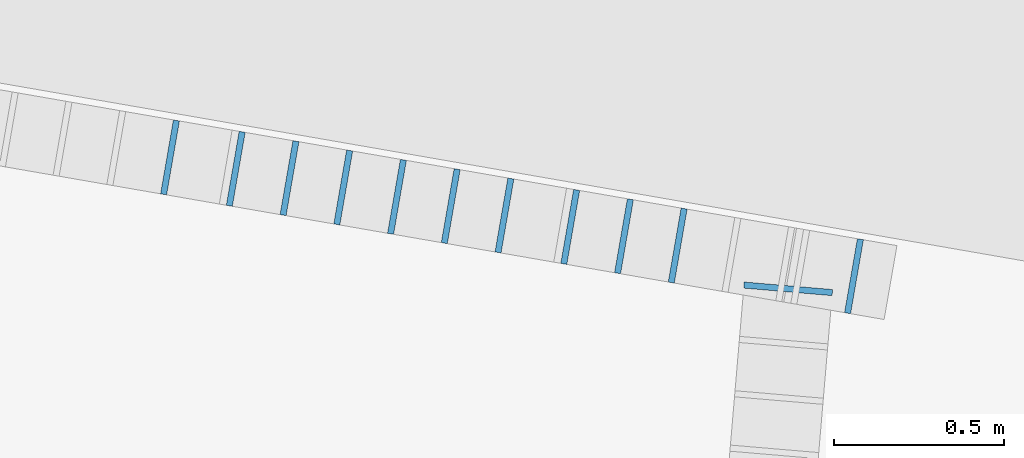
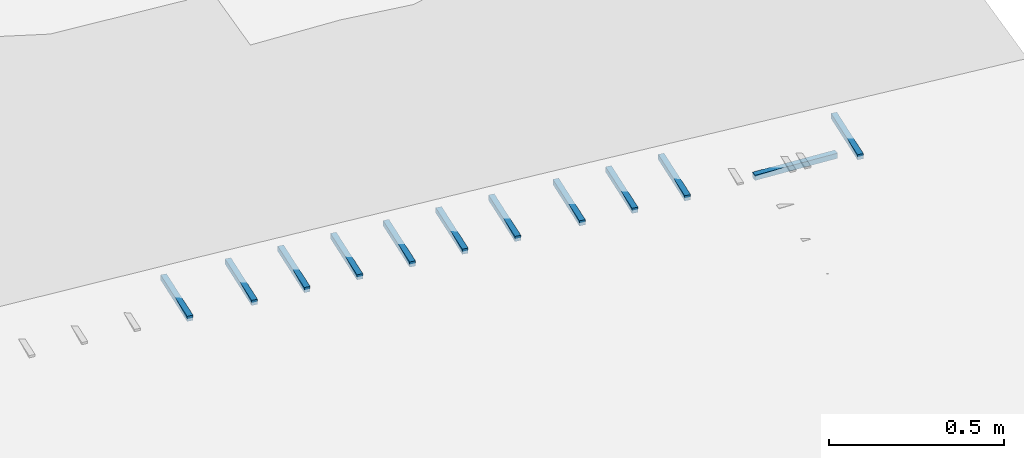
# Not in any storey, part 9 of 33: 12 members.
"""IFC4 model written with IfcOpenShell, lengths in metres."""

import ifcopenshell
import ifcopenshell.guid

model = None  # the IFC model being written
_history = None  # IfcOwnerHistory: only IFC2X3 demands one
_inside = {}  # id of a spatial element -> (the spatial element, [elements in it])
_under = {}  # id of a project, library or spatial element -> (it, [spatial elements below it])
_declared = {}  # id of a project -> (the project, [libraries it declares])
_typed = {}  # id of a type object -> (the type object, [elements of that type])
_made_of = {}  # id of a material, layer set ... -> (it, [elements and type objects made of it])


def new_model(schema):
    """Start an empty IFC model of exactly this schema.

    Asked for "IFC4X3", IfcOpenShell would pick the latest addendum, in which some entities
    have other attributes; the version numbers below select the first issue.
    IFC2X3 requires an IfcOwnerHistory on every rooted entity: one is made here for all.
    """
    global model, _history
    if schema == "IFC4X3":
        model = ifcopenshell.file(schema_version=(4, 3, 0, 0))
    else:
        model = ifcopenshell.file(schema=schema)
    _inside.clear()
    _under.clear()
    _declared.clear()
    _typed.clear()
    _made_of.clear()
    _history = None
    if model.schema == "IFC2X3":
        org = make("IfcOrganization", Name="unknown")
        user = make(
            "IfcPersonAndOrganization",
            ThePerson=make("IfcPerson", FamilyName="unknown"),
            TheOrganization=org,
        )
        app = make(
            "IfcApplication",
            ApplicationDeveloper=org,
            Version="unknown",
            ApplicationFullName="unknown",
            ApplicationIdentifier="unknown",
        )
        _history = make(
            "IfcOwnerHistory",
            OwningUser=user,
            OwningApplication=app,
            ChangeAction="ADDED",
            CreationDate=0,
        )
    return model


def make(cls, **values):
    """One entity of the class cls with the attributes given. An attribute that is None is left unset."""
    return model.create_entity(
        cls, **{name: value for name, value in values.items() if value is not None}
    )


def rooted(cls, **values):
    """An entity with a GlobalId (a new one), such as an element, a storey or a relation."""
    return make(cls, GlobalId=ifcopenshell.guid.new(), OwnerHistory=_history, **values)


def si_unit(unit_type, name, prefix=None):
    """IfcSIUnit, for example si_unit("LENGTHUNIT", "METRE", prefix="MILLI")."""
    return make("IfcSIUnit", UnitType=unit_type, Prefix=prefix, Name=name)


def assignment(units):
    """IfcUnitAssignment: the units of a project."""
    return None if units is None else make("IfcUnitAssignment", Units=units)


def point(xyz):
    """IfcCartesianPoint."""
    return None if xyz is None else make("IfcCartesianPoint", Coordinates=xyz)


def direction(xyz):
    """IfcDirection."""
    return None if xyz is None else make("IfcDirection", DirectionRatios=xyz)


def frame(location, z_axis=None, x_axis=None):
    """IfcAxis2Placement3D, a coordinate frame: its origin and axes. An axis left out is left unset."""
    return make(
        "IfcAxis2Placement3D",
        Location=point(location),
        Axis=direction(z_axis),
        RefDirection=direction(x_axis),
    )


def origin_with_axes():
    """The frame at (0, 0, 0) with the z axis (0, 0, 1) and the x axis (1, 0, 0) written out."""
    return frame((0.0, 0.0, 0.0), z_axis=(0.0, 0.0, 1.0), x_axis=(1.0, 0.0, 0.0))


def place(relative_to, where):
    """IfcLocalPlacement: puts the frame where relative to a parent placement (None: the world)."""
    return make(
        "IfcLocalPlacement", PlacementRelTo=relative_to, RelativePlacement=where
    )


def context(
    kind, dimensions, precision=None, world=None, true_north=None, identifier=None
):
    """IfcGeometricRepresentationContext, for example the 3D "Model" context."""
    return make(
        "IfcGeometricRepresentationContext",
        ContextIdentifier=identifier,
        ContextType=kind,
        CoordinateSpaceDimension=dimensions,
        Precision=precision,
        WorldCoordinateSystem=world,
        TrueNorth=true_north,
    )


def subcontext(parent, identifier, kind, view, scale=None):
    """IfcGeometricRepresentationSubContext, for example "Body" below "Model"."""
    return make(
        "IfcGeometricRepresentationSubContext",
        ContextIdentifier=identifier,
        ContextType=kind,
        ParentContext=parent,
        TargetScale=scale,
        TargetView=view,
    )


def project(units=None, contexts=None):
    """IfcProject with its units and contexts."""
    return rooted(
        "IfcProject",
        Name="project",
        RepresentationContexts=contexts,
        UnitsInContext=assignment(units),
    )


def spatial(cls, under=None, at=None, **own):
    """A site, building, storey or space (cls), placed at a placement, below another one or the project."""
    s = rooted(cls, ObjectPlacement=at, **own)
    if under is not None:
        _under.setdefault(under.id(), (under, []))[1].append(s)
    return s


def profile(cls, at=None, kind="AREA", **sizes):
    """A parametric profile (cls). Its sizes go by their IFC names, for example OverallWidth=200.0."""
    return make(cls, ProfileType=kind, Position=at, **sizes)


def rectangle(**sizes):
    """IfcRectangleProfileDef."""
    return profile("IfcRectangleProfileDef", **sizes)


def extrude(swept, where, along, depth):
    """IfcExtrudedAreaSolid: the profile swept, set in the frame where, extruded along a direction by depth."""
    return make(
        "IfcExtrudedAreaSolid",
        SweptArea=swept,
        Position=where,
        ExtrudedDirection=direction(along),
        Depth=depth,
    )


def shape(context_of_items, identifier, shape_type, items):
    """IfcShapeRepresentation: the items that make up one representation, for example the "Body"."""
    return make(
        "IfcShapeRepresentation",
        ContextOfItems=context_of_items,
        RepresentationIdentifier=identifier,
        RepresentationType=shape_type,
        Items=items,
    )


def material(Name=None, Category=None):
    """IfcMaterial."""
    return make("IfcMaterial", Name=Name, Category=Category)


def material_profile(
    of_material, cross_section, Name=None, Category=None, Priority=None
):
    """IfcMaterialProfile: a cross section and its material."""
    return make(
        "IfcMaterialProfile",
        Name=Name,
        Material=of_material,
        Profile=cross_section,
        Priority=Priority,
        Category=Category,
    )


def profile_set(profiles, Name=None, composite=None):
    """IfcMaterialProfileSet."""
    return make(
        "IfcMaterialProfileSet",
        Name=Name,
        MaterialProfiles=profiles,
        CompositeProfile=composite,
    )


def profile_usage(for_profile_set, cardinal=None, extent=None):
    """IfcMaterialProfileSetUsage: how a profile set lies along its element."""
    return make(
        "IfcMaterialProfileSetUsage",
        ForProfileSet=for_profile_set,
        CardinalPoint=cardinal,
        ReferenceExtent=extent,
    )


def made_of(thing, what):
    """Note that an element or type object is made of a material, layer set ...; save() writes the relation."""
    if what is not None:
        _made_of.setdefault(what.id(), (what, []))[1].append(thing)
    return thing


def type_object(cls, material=None, **own):
    """A type object (cls), such as IfcWallType, which elements share."""
    return made_of(rooted(cls, **own), material)


def element(
    cls,
    number,
    at=None,
    inside=None,
    cuts=None,
    type_object=None,
    material=None,
    context=None,
    identifier="Body",
    shape_type=None,
    held_by="IfcProductDefinitionShape",
    body=None,
    shapes=None,
    **own,
):
    """One element of the class cls, such as IfcWall. Its Tag is "e" and its number.

    at: its placement. inside: the storey or other place that contains it. cuts: it is an
    opening in that element (IfcRelVoidsElement). A single representation is given by context,
    identifier, shape_type and body (its items); several are given by shapes. held_by: the class
    of the entity that holds the representations. save() writes the other relations.
    """
    e = rooted(cls, Tag="e%d" % number, ObjectPlacement=at, **own)
    if body is not None:
        shapes = [shape(context, identifier, shape_type, body)]
    if shapes is not None:
        e.Representation = make(held_by, Representations=shapes)
    if inside is not None:
        _inside.setdefault(inside.id(), (inside, []))[1].append(e)
    if cuts is not None:
        rooted(
            "IfcRelVoidsElement", RelatingBuildingElement=cuts, RelatedOpeningElement=e
        )
    if type_object is not None:
        _typed.setdefault(type_object.id(), (type_object, []))[1].append(e)
    return made_of(e, material)


def aggregate(whole, parts):
    """IfcRelAggregates: a whole, such as a stair, and the parts it consists of."""
    return rooted("IfcRelAggregates", RelatingObject=whole, RelatedObjects=parts)


def save(model, path):
    """Write the relations noted so far, then the file.

    IfcRelAggregates (storeys below a building ...), IfcRelContainedInSpatialStructure (elements
    in a storey), IfcRelDefinesByType, IfcRelAssociatesMaterial and IfcRelDeclares: one each for
    every whole, place, type object, material and project.
    """
    for whole, parts in _under.values():
        aggregate(whole, parts)
    for where, things in _inside.values():
        rooted(
            "IfcRelContainedInSpatialStructure",
            RelatedElements=things,
            RelatingStructure=where,
        )
    for kind, things in _typed.values():
        rooted("IfcRelDefinesByType", RelatedObjects=things, RelatingType=kind)
    for what, things in _made_of.values():
        rooted("IfcRelAssociatesMaterial", RelatedObjects=things, RelatingMaterial=what)
    for by, libraries in _declared.values():
        rooted("IfcRelDeclares", RelatingContext=by, RelatedDefinitions=libraries)
    model.write(path)


model = new_model("IFC4")

# Units and contexts
model_context = context("Model", 3, precision=1e-05, world=origin_with_axes(), true_north=direction((0.0, 1.0)))
body_context = subcontext(model_context, "Body", "Model", "MODEL_VIEW")
ifc_project = project(units=[si_unit("AREAUNIT", "SQUARE_METRE"), si_unit("VOLUMEUNIT", "CUBIC_METRE"), si_unit("LENGTHUNIT", "METRE")], contexts=[model_context])

# Site
site_placement = place(None, origin_with_axes())
site = spatial("IfcSite", under=ifc_project, at=site_placement, Name="Lares · Rua das Mercês · artigo 4771")

# Members
ifc_material = material(Name="Aço galvanizado / Stahl verzinkt", Category="steel")
ifc_material_profile = material_profile(ifc_material, rectangle(XDim=0.018, YDim=0.018))
ifc_profile_set = profile_set([ifc_material_profile], Name="R0.018")
ifc_profile_usage_1 = profile_usage(ifc_profile_set)
member_type = type_object("IfcMemberType", Name="R0.018 / galvanized", PredefinedType="NOTDEFINED", material=ifc_profile_set)
member_1_placement = place(site_placement, frame((81.0591784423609, 5.70589247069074, 16.3575433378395), z_axis=(0.171124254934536, 0.985249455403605, 0.0), x_axis=(0.985249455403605, -0.171124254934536, 0.0)))
element("IfcMember", 1, at=member_1_placement, inside=site, type_object=member_type, material=ifc_profile_usage_1, Name="Acesso · dreno lateral raso · grelha", context=body_context, shape_type="SweptSolid", body=[
    extrude(rectangle(XDim=0.018, YDim=0.018), origin_with_axes(), (0.0, 0.0, 1.0), 0.220000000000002),
])
ifc_profile_usage_2 = profile_usage(ifc_profile_set)
member_2_placement = place(site_placement, frame((81.2520656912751, 5.6723906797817, 16.3658877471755), z_axis=(0.171122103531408, 0.985249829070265, 0.0), x_axis=(0.985249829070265, -0.171122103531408, 0.0)))
element("IfcMember", 2, at=member_2_placement, inside=site, type_object=member_type, material=ifc_profile_usage_2, Name="Acesso · dreno lateral raso · grelha", context=body_context, shape_type="SweptSolid", body=[
    extrude(rectangle(XDim=0.018, YDim=0.018), origin_with_axes(), (0.0, 0.0, 1.0), 0.220000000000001),
])
ifc_profile_usage_3 = profile_usage(ifc_profile_set)
member_3_placement = place(site_placement, frame((81.4097056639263, 5.64501114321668, 16.3718361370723), z_axis=(0.171122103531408, 0.985249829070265, 0.0), x_axis=(0.985249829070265, -0.171122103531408, 0.0)))
element("IfcMember", 3, at=member_3_placement, inside=site, type_object=member_type, material=ifc_profile_usage_3, Name="Acesso · dreno lateral raso · grelha", context=body_context, shape_type="SweptSolid", body=[
    extrude(rectangle(XDim=0.018, YDim=0.018), origin_with_axes(), (0.0, 0.0, 1.0), 0.220000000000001),
])
ifc_profile_usage_4 = profile_usage(ifc_profile_set)
member_4_placement = place(site_placement, frame((81.5673456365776, 5.61763160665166, 16.377784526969), z_axis=(0.171122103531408, 0.985249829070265, 0.0), x_axis=(0.985249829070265, -0.171122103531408, 0.0)))
element("IfcMember", 4, at=member_4_placement, inside=site, type_object=member_type, material=ifc_profile_usage_4, Name="Acesso · dreno lateral raso · grelha", context=body_context, shape_type="SweptSolid", body=[
    extrude(rectangle(XDim=0.018, YDim=0.018), origin_with_axes(), (0.0, 0.0, 1.0), 0.220000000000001),
])
ifc_profile_usage_5 = profile_usage(ifc_profile_set)
member_5_placement = place(site_placement, frame((81.7249856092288, 5.59025207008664, 16.3837329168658), z_axis=(0.171122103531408, 0.985249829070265, 0.0), x_axis=(0.985249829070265, -0.171122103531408, 0.0)))
element("IfcMember", 5, at=member_5_placement, inside=site, type_object=member_type, material=ifc_profile_usage_5, Name="Acesso · dreno lateral raso · grelha", context=body_context, shape_type="SweptSolid", body=[
    extrude(rectangle(XDim=0.018, YDim=0.018), origin_with_axes(), (0.0, 0.0, 1.0), 0.220000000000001),
])
ifc_profile_usage_6 = profile_usage(ifc_profile_set)
member_6_placement = place(site_placement, frame((81.8826255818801, 5.56287253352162, 16.3896813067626), z_axis=(0.171122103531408, 0.985249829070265, 0.0), x_axis=(0.985249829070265, -0.171122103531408, 0.0)))
element("IfcMember", 6, at=member_6_placement, inside=site, type_object=member_type, material=ifc_profile_usage_6, Name="Acesso · dreno lateral raso · grelha", context=body_context, shape_type="SweptSolid", body=[
    extrude(rectangle(XDim=0.018, YDim=0.018), origin_with_axes(), (0.0, 0.0, 1.0), 0.220000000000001),
])
ifc_profile_usage_7 = profile_usage(ifc_profile_set)
member_7_placement = place(site_placement, frame((82.0402655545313, 5.53549299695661, 16.3956296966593), z_axis=(0.171122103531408, 0.985249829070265, 0.0), x_axis=(0.985249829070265, -0.171122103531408, 0.0)))
element("IfcMember", 7, at=member_7_placement, inside=site, type_object=member_type, material=ifc_profile_usage_7, Name="Acesso · dreno lateral raso · grelha", context=body_context, shape_type="SweptSolid", body=[
    extrude(rectangle(XDim=0.018, YDim=0.018), origin_with_axes(), (0.0, 0.0, 1.0), 0.220000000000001),
])
ifc_profile_usage_8 = profile_usage(ifc_profile_set)
member_8_placement = place(site_placement, frame((82.2331663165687, 5.50198928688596, 16.4027249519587), z_axis=(0.171120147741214, 0.985250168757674, 0.0), x_axis=(0.985250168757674, -0.171120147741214, 0.0)))
element("IfcMember", 8, at=member_8_placement, inside=site, type_object=member_type, material=ifc_profile_usage_8, Name="Acesso · dreno lateral raso · grelha", context=body_context, shape_type="SweptSolid", body=[
    extrude(rectangle(XDim=0.018, YDim=0.018), origin_with_axes(), (0.0, 0.0, 1.0), 0.219999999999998),
])
ifc_profile_usage_9 = profile_usage(ifc_profile_set)
member_9_placement = place(site_placement, frame((82.3908063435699, 5.47461006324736, 16.4076938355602), z_axis=(0.171120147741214, 0.985250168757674, 0.0), x_axis=(0.985250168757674, -0.171120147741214, 0.0)))
element("IfcMember", 9, at=member_9_placement, inside=site, type_object=member_type, material=ifc_profile_usage_9, Name="Acesso · dreno lateral raso · grelha", context=body_context, shape_type="SweptSolid", body=[
    extrude(rectangle(XDim=0.018, YDim=0.018), origin_with_axes(), (0.0, 0.0, 1.0), 0.219999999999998),
])
ifc_profile_usage_10 = profile_usage(ifc_profile_set)
member_10_placement = place(site_placement, frame((82.5484463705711, 5.44723083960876, 16.4126627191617), z_axis=(0.171120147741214, 0.985250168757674, 0.0), x_axis=(0.985250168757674, -0.171120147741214, 0.0)))
element("IfcMember", 10, at=member_10_placement, inside=site, type_object=member_type, material=ifc_profile_usage_10, Name="Acesso · dreno lateral raso · grelha", context=body_context, shape_type="SweptSolid", body=[
    extrude(rectangle(XDim=0.018, YDim=0.018), origin_with_axes(), (0.0, 0.0, 1.0), 0.219999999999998),
])
ifc_profile_usage_11 = profile_usage(ifc_profile_set)
member_11_placement = place(site_placement, frame((83.0655337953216, 5.35742233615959, 16.4289615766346), z_axis=(0.17111893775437, 0.985250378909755, 0.0), x_axis=(0.985250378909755, -0.17111893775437, 0.0)))
element("IfcMember", 11, at=member_11_placement, inside=site, type_object=member_type, material=ifc_profile_usage_11, Name="Acesso · dreno lateral raso · grelha", context=body_context, shape_type="SweptSolid", body=[
    extrude(rectangle(XDim=0.018, YDim=0.018), origin_with_axes(), (0.0, 0.0, 1.0), 0.22),
])
ifc_profile_usage_12 = profile_usage(ifc_profile_set)
member_12_placement = place(site_placement, frame((83.0207879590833, 5.41774986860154, 16.4173001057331), z_axis=(-0.99641625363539, 0.0845851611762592, 0.0), x_axis=(0.0845851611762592, 0.99641625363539, 0.0)))
element("IfcMember", 12, at=member_12_placement, inside=site, type_object=member_type, material=ifc_profile_usage_12, Name="Interceção · caleira rua · grelha", context=body_context, shape_type="SweptSolid", body=[
    extrude(rectangle(XDim=0.018, YDim=0.018), origin_with_axes(), (0.0, 0.0, 1.0), 0.260000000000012),
])

save(model, "model.ifc")
